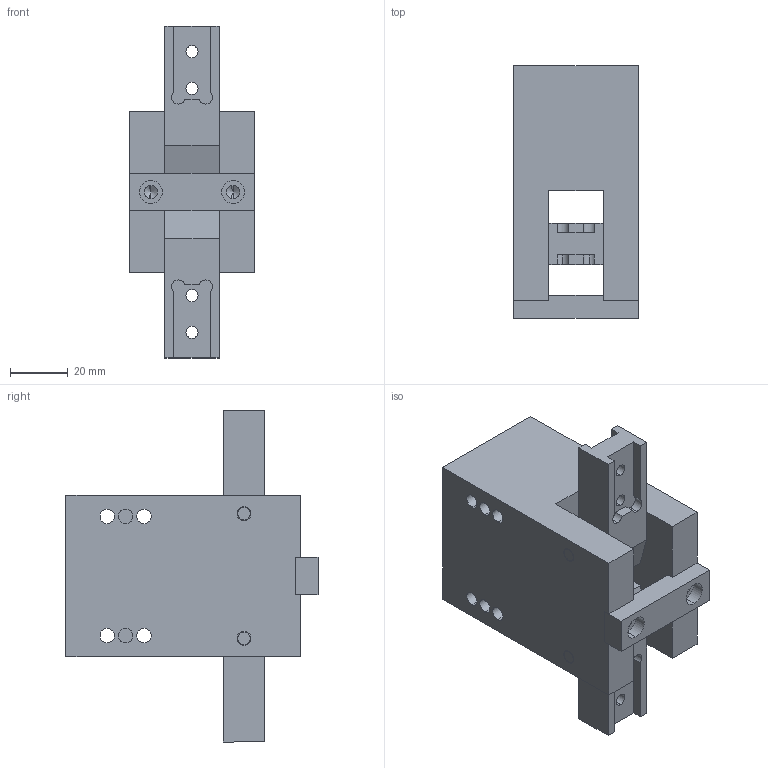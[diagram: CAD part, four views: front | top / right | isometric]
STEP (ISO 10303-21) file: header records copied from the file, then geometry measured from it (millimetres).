
FILE_DESCRIPTION (( 'STEP AP203' ), '1' );
FILE_NAME ('AGA-30 OPEN in MM.STEP', '2014-11-03T20:30:34', ( 'setup' ), ( '' ), 'SwSTEP 2.0', 'SolidWorks 2013', '' );
FILE_SCHEMA (( 'CONFIG_CONTROL_DESIGN' ));
Length unit declared in the file: millimetre
Products named in the file (5): AGA-30 BLOCK; AGA-30 OPEN in MM; AGA-30 BODY; AGA-30 PIN; AGA-30 JAW
Assembly tree (6 placements, depth 2):
  AGA-30 OPEN in MM
    AGA-30 BODY
    AGA-30 PIN  x2
    AGA-30 JAW  x2
    AGA-30 BLOCK
Bounding box: 43.18 x 87.25 x 114.91 mm (x, y, z)
Volume: 170709.6 mm3; surface area: 43403.6 mm2
Topology: 6 solids, 6 shells, 211 faces, 518 edges, 324 vertices
Faces by surface type: cylinder 99, plane 80, cone 32
Entity records: 5673 total; most frequent: DIRECTION 952, CARTESIAN_POINT 858, ORIENTED_EDGE 820, EDGE_CURVE 410, AXIS2_PLACEMENT_3D 358, VERTEX_POINT 264, LINE 236, VECTOR 236
